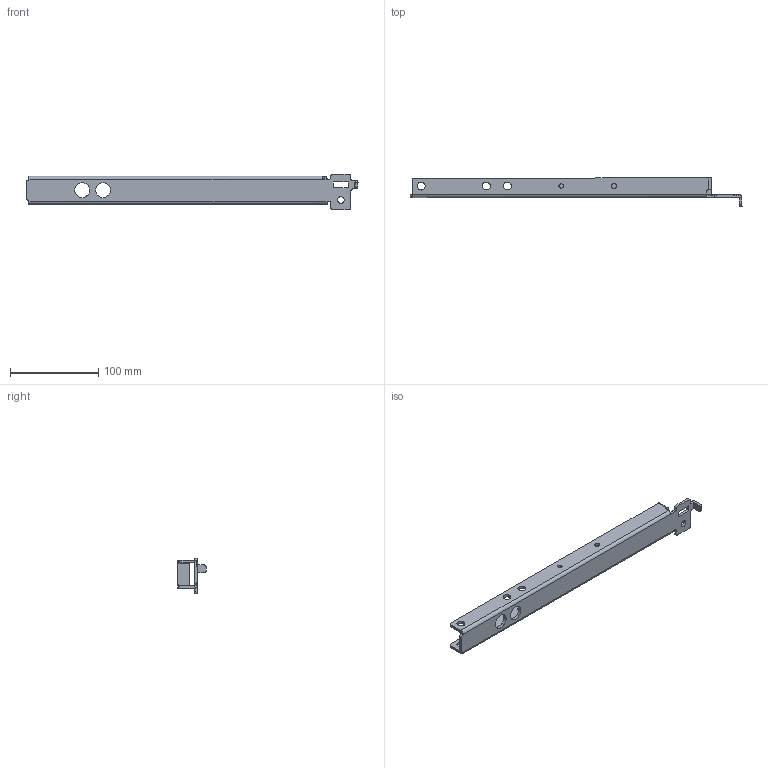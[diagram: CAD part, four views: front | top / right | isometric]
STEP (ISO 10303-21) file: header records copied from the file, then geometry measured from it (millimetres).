
FILE_DESCRIPTION(('CATIA V5 STEP Exchange'),'2;1');
FILE_NAME('C:\Users\nobody\Desktop\SQX3000-6805415_E.stp','2025-06-11T07:50:29+00:00',('none'),('none'),'CATIA Version 5 Release 20 GA (IN-10)','CATIA V5 STEP AP203 Edition 2','none');
FILE_SCHEMA(('AP203_CONFIGURATION_CONTROLLED_3D_DESIGN_OF_MECHANICAL_PARTS_AND_ASSEMBLIES_MIM_LF { 1 0 10303 403 2 1 2}'));
Length unit declared in the file: millimetre
Products named in the file (1): SQX3000-6805415
Bounding box: 377.01 x 31.98 x 40 mm (x, y, z)
Volume: 70876.5 mm3; surface area: 51339.9 mm2
Topology: 1 solids, 1 shells, 142 faces, 415 edges, 275 vertices
Faces by surface type: cylinder 72, plane 51, bspline 17, extrusion 2
Entity records: 5616 total; most frequent: CARTESIAN_POINT 2087, ORIENTED_EDGE 830, DIRECTION 533, EDGE_CURVE 415, VERTEX_POINT 275, AXIS2_PLACEMENT_3D 225, VECTOR 195, LINE 193
